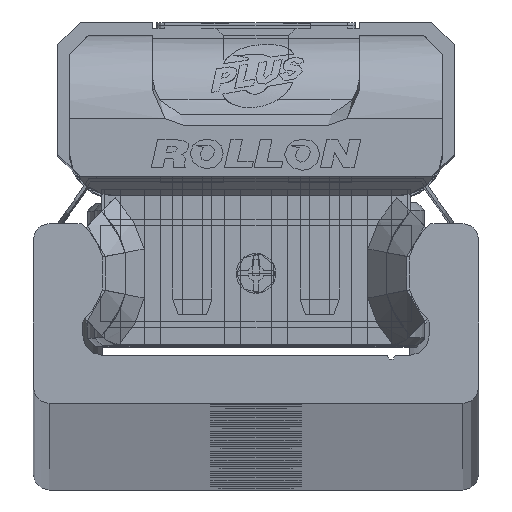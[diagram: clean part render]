
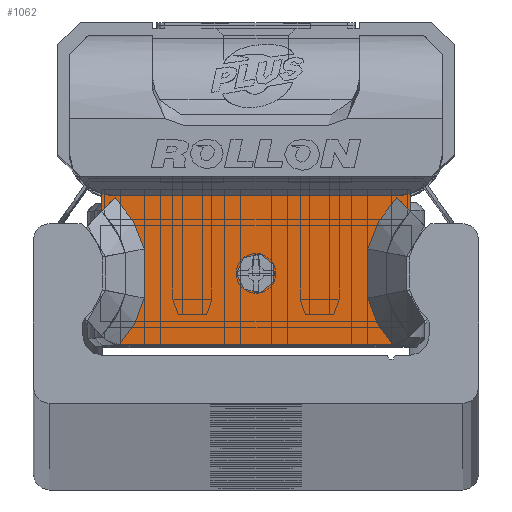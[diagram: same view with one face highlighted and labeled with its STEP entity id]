
A CAD part, top view. The second image highlights one B-rep face of the part: STEP entity #1062.
In plain terms, the highlighted planar face has unit normal (0, 0, 1) as drawn and (0, 0, -1) by its records, which use the part's own axes.
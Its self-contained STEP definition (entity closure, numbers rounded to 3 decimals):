
#1062 = ADVANCED_FACE( '', ( #2670, #2671 ), #2672, .F. );
#2670 = FACE_BOUND( '', #5127, .T. );
#2671 = FACE_OUTER_BOUND( '', #5128, .T. );
#2672 = PLANE( '', #5129 );
#5127 = EDGE_LOOP( '', ( #8317 ) );
#5128 = EDGE_LOOP( '', ( #8318, #8319, #8320, #8321, #8322, #8323, #8324, #8325, #8326, #8327, #8328, #8329, #8330, #8331 ) );
#5129 = AXIS2_PLACEMENT_3D( '', #8332, #8333, #8334 );
#8317 = ORIENTED_EDGE( '', *, *, #13962, .T. );
#8318 = ORIENTED_EDGE( '', *, *, #13963, .F. );
#8319 = ORIENTED_EDGE( '', *, *, #13964, .T. );
#8320 = ORIENTED_EDGE( '', *, *, #13965, .T. );
#8321 = ORIENTED_EDGE( '', *, *, #13966, .T. );
#8322 = ORIENTED_EDGE( '', *, *, #13967, .T. );
#8323 = ORIENTED_EDGE( '', *, *, #13968, .T. );
#8324 = ORIENTED_EDGE( '', *, *, #13969, .T. );
#8325 = ORIENTED_EDGE( '', *, *, #13970, .T. );
#8326 = ORIENTED_EDGE( '', *, *, #13971, .T. );
#8327 = ORIENTED_EDGE( '', *, *, #13972, .T. );
#8328 = ORIENTED_EDGE( '', *, *, #13973, .T. );
#8329 = ORIENTED_EDGE( '', *, *, #13974, .T. );
#8330 = ORIENTED_EDGE( '', *, *, #13975, .T. );
#8331 = ORIENTED_EDGE( '', *, *, #13976, .T. );
#8332 = CARTESIAN_POINT( '', ( 9.7, 4.89, -10.6 ) );
#8333 = DIRECTION( '', ( 0., 0., 1. ) );
#8334 = DIRECTION( '', ( 1., 0., 0. ) );
#13962 = EDGE_CURVE( '', #16773, #16773, #16774, .T. );
#13963 = EDGE_CURVE( '', #16775, #16776, #16777, .T. );
#13964 = EDGE_CURVE( '', #16775, #16778, #16779, .T. );
#13965 = EDGE_CURVE( '', #16778, #16780, #16781, .T. );
#13966 = EDGE_CURVE( '', #16780, #16782, #16783, .T. );
#13967 = EDGE_CURVE( '', #16782, #16784, #16785, .T. );
#13968 = EDGE_CURVE( '', #16784, #16786, #16787, .T. );
#13969 = EDGE_CURVE( '', #16786, #16788, #16789, .T. );
#13970 = EDGE_CURVE( '', #16788, #16790, #16791, .T. );
#13971 = EDGE_CURVE( '', #16790, #16346, #16792, .T. );
#13972 = EDGE_CURVE( '', #16346, #16793, #16794, .T. );
#13973 = EDGE_CURVE( '', #16793, #16795, #16796, .T. );
#13974 = EDGE_CURVE( '', #16795, #16797, #16798, .T. );
#13975 = EDGE_CURVE( '', #16797, #16799, #16800, .T. );
#13976 = EDGE_CURVE( '', #16799, #16776, #16801, .T. );
#16346 = VERTEX_POINT( '', #20136 );
#16773 = VERTEX_POINT( '', #20734 );
#16774 = CIRCLE( '', #20735, 1.25 );
#16775 = VERTEX_POINT( '', #20736 );
#16776 = VERTEX_POINT( '', #20737 );
#16777 = LINE( '', #20738, #20739 );
#16778 = VERTEX_POINT( '', #20740 );
#16779 = CIRCLE( '', #20741, 2.8 );
#16780 = VERTEX_POINT( '', #20742 );
#16781 = LINE( '', #20743, #20744 );
#16782 = VERTEX_POINT( '', #20745 );
#16783 = CIRCLE( '', #20746, 2.8 );
#16784 = VERTEX_POINT( '', #20747 );
#16785 = LINE( '', #20748, #20749 );
#16786 = VERTEX_POINT( '', #20750 );
#16787 = LINE( '', #20751, #20752 );
#16788 = VERTEX_POINT( '', #20753 );
#16789 = B_SPLINE_CURVE_WITH_KNOTS( '', 2, ( #20754, #20755, #20756, #20757, #20758 ), .UNSPECIFIED., .F., .F., ( 3, 2, 3 ), ( 0., 0.5, 1. ), .UNSPECIFIED. );
#16790 = VERTEX_POINT( '', #20759 );
#16791 = B_SPLINE_CURVE_WITH_KNOTS( '', 2, ( #20760, #20761, #20762 ), .UNSPECIFIED., .F., .F., ( 3, 3 ), ( 0., 1. ), .UNSPECIFIED. );
#16792 = B_SPLINE_CURVE_WITH_KNOTS( '', 2, ( #20763, #20764, #20765 ), .UNSPECIFIED., .F., .F., ( 3, 3 ), ( 0., 1. ), .UNSPECIFIED. );
#16793 = VERTEX_POINT( '', #20766 );
#16794 = LINE( '', #20767, #20768 );
#16795 = VERTEX_POINT( '', #20769 );
#16796 = B_SPLINE_CURVE_WITH_KNOTS( '', 2, ( #20770, #20771, #20772 ), .UNSPECIFIED., .F., .F., ( 3, 3 ), ( 0.1, 1. ), .UNSPECIFIED. );
#16797 = VERTEX_POINT( '', #20773 );
#16798 = B_SPLINE_CURVE_WITH_KNOTS( '', 2, ( #20774, #20775, #20776 ), .UNSPECIFIED., .F., .F., ( 3, 3 ), ( 0., 1. ), .UNSPECIFIED. );
#16799 = VERTEX_POINT( '', #20777 );
#16800 = B_SPLINE_CURVE_WITH_KNOTS( '', 2, ( #20778, #20779, #20780 ), .UNSPECIFIED., .F., .F., ( 3, 3 ), ( 0., 1. ), .UNSPECIFIED. );
#16801 = LINE( '', #20781, #20782 );
#20136 = CARTESIAN_POINT( '', ( 8.59, -4.893, -10.6 ) );
#20734 = CARTESIAN_POINT( '', ( 1.25, -0.39, -10.6 ) );
#20735 = AXIS2_PLACEMENT_3D( '', #24889, #24890, #24891 );
#20736 = CARTESIAN_POINT( '', ( -9.7, 4.612, -10.6 ) );
#20737 = CARTESIAN_POINT( '', ( -9.7, 3.494, -10.6 ) );
#20738 = CARTESIAN_POINT( '', ( -9.7, 4.89, -10.6 ) );
#20739 = VECTOR( '', #24892, 1000. );
#20740 = CARTESIAN_POINT( '', ( -8.95, 4.51, -10.6 ) );
#20741 = AXIS2_PLACEMENT_3D( '', #24893, #24894, #24895 );
#20742 = CARTESIAN_POINT( '', ( 8.95, 4.51, -10.6 ) );
#20743 = CARTESIAN_POINT( '', ( 9.7, 4.51, -10.6 ) );
#20744 = VECTOR( '', #24896, 1000. );
#20745 = CARTESIAN_POINT( '', ( 9.7, 4.612, -10.6 ) );
#20746 = AXIS2_PLACEMENT_3D( '', #24897, #24898, #24899 );
#20747 = CARTESIAN_POINT( '', ( 9.7, 3.497, -10.6 ) );
#20748 = CARTESIAN_POINT( '', ( 9.7, 4.89, -10.6 ) );
#20749 = VECTOR( '', #24900, 1000. );
#20750 = CARTESIAN_POINT( '', ( 8.853, 4.366, -10.6 ) );
#20751 = CARTESIAN_POINT( '', ( 9.7, 3.501, -10.6 ) );
#20752 = VECTOR( '', #24901, 1000. );
#20753 = CARTESIAN_POINT( '', ( 7.031, 1.144, -10.6 ) );
#20754 = CARTESIAN_POINT( '', ( 8.853, 4.366, -10.6 ) );
#20755 = CARTESIAN_POINT( '', ( 8.182, 3.708, -10.6 ) );
#20756 = CARTESIAN_POINT( '', ( 7.715, 2.883, -10.6 ) );
#20757 = CARTESIAN_POINT( '', ( 7.249, 2.058, -10.6 ) );
#20758 = CARTESIAN_POINT( '', ( 7.031, 1.144, -10.6 ) );
#20759 = CARTESIAN_POINT( '', ( 7.031, -1.944, -10.6 ) );
#20760 = CARTESIAN_POINT( '', ( 7.031, 1.144, -10.6 ) );
#20761 = CARTESIAN_POINT( '', ( 6.929, -0.4, -10.6 ) );
#20762 = CARTESIAN_POINT( '', ( 7.031, -1.944, -10.6 ) );
#20763 = CARTESIAN_POINT( '', ( 7.031, -1.944, -10.6 ) );
#20764 = CARTESIAN_POINT( '', ( 7.429, -3.615, -10.6 ) );
#20765 = CARTESIAN_POINT( '', ( 8.588, -4.89, -10.6 ) );
#20766 = CARTESIAN_POINT( '', ( -8.59, -4.893, -10.6 ) );
#20767 = CARTESIAN_POINT( '', ( 9.7, -4.89, -10.6 ) );
#20768 = VECTOR( '', #24902, 1000. );
#20769 = CARTESIAN_POINT( '', ( -7.031, -1.944, -10.6 ) );
#20770 = CARTESIAN_POINT( '', ( -8.587, -4.89, -10.6 ) );
#20771 = CARTESIAN_POINT( '', ( -7.432, -3.63, -10.6 ) );
#20772 = CARTESIAN_POINT( '', ( -7.031, -1.944, -10.6 ) );
#20773 = CARTESIAN_POINT( '', ( -7.031, 1.144, -10.6 ) );
#20774 = CARTESIAN_POINT( '', ( -7.031, -1.944, -10.6 ) );
#20775 = CARTESIAN_POINT( '', ( -6.929, -0.4, -10.6 ) );
#20776 = CARTESIAN_POINT( '', ( -7.031, 1.144, -10.6 ) );
#20777 = CARTESIAN_POINT( '', ( -8.853, 4.366, -10.6 ) );
#20778 = CARTESIAN_POINT( '', ( -7.031, 1.144, -10.6 ) );
#20779 = CARTESIAN_POINT( '', ( -7.477, 3.018, -10.6 ) );
#20780 = CARTESIAN_POINT( '', ( -8.853, 4.366, -10.6 ) );
#20781 = CARTESIAN_POINT( '', ( -8.853, 4.366, -10.6 ) );
#20782 = VECTOR( '', #24903, 1000. );
#24889 = CARTESIAN_POINT( '', ( 0., -0.39, -10.6 ) );
#24890 = DIRECTION( '', ( 0., 0., 1. ) );
#24891 = DIRECTION( '', ( 1., 0., 0. ) );
#24892 = DIRECTION( '', ( 0., -1., 0. ) );
#24893 = CARTESIAN_POINT( '', ( -8.95, 7.31, -10.6 ) );
#24894 = DIRECTION( '', ( 0., 0., 1. ) );
#24895 = DIRECTION( '', ( 1., 0., 0. ) );
#24896 = DIRECTION( '', ( 1., 0., 0. ) );
#24897 = CARTESIAN_POINT( '', ( 8.95, 7.31, -10.6 ) );
#24898 = DIRECTION( '', ( 0., 0., 1. ) );
#24899 = DIRECTION( '', ( 1., 0., 0. ) );
#24900 = DIRECTION( '', ( 0., -1., 0. ) );
#24901 = DIRECTION( '', ( -0.7, 0.714, 0. ) );
#24902 = DIRECTION( '', ( -1., 0., 0. ) );
#24903 = DIRECTION( '', ( -0.7, -0.714, 0. ) );
